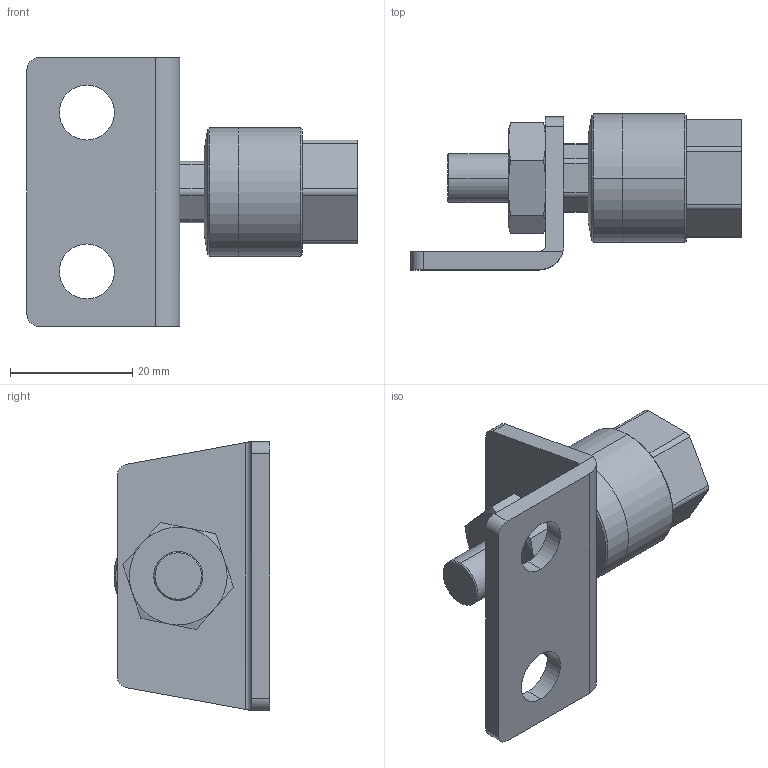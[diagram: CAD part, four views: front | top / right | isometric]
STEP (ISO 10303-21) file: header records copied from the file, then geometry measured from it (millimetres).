
FILE_DESCRIPTION (( 'STEP AP203' ), '1' );
FILE_NAME ('FCM8-1.25-L.STEP', '2016-04-14T01:53:11', ( '' ), ( '' ), 'SwSTEP 2.0', 'SolidWorks 2014', '' );
FILE_SCHEMA (( 'CONFIG_CONTROL_DESIGN' ));
Length unit declared in the file: millimetre
Products named in the file (4): FCM8-1.25; FCM8-1.25-L; FCM8-L; M8x1.25-6mm(16)
Assembly tree (3 placements, depth 2):
  FCM8-1.25-L
    FCM8-1.25
    M8x1.25-6mm(16)
    FCM8-L
Bounding box: 54 x 25.5 x 44 mm (x, y, z)
Volume: 14704.4 mm3; surface area: 8309.1 mm2
Topology: 3 solids, 3 shells, 91 faces, 220 edges, 137 vertices
Faces by surface type: plane 35, cylinder 34, torus 12, cone 10
Entity records: 3146 total; most frequent: CARTESIAN_POINT 592, DIRECTION 468, ORIENTED_EDGE 436, EDGE_CURVE 218, AXIS2_PLACEMENT_3D 181, VERTEX_POINT 137, VECTOR 106, LINE 106
